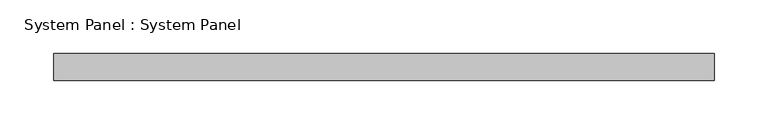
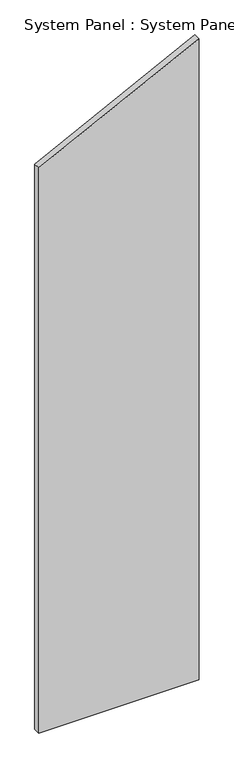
"""IFC4 building model written with IfcOpenShell, lengths in millimetres: plate geometry, System Panel : System Panel."""

from ifc_helpers import new_model, si_unit, frame, origin, place, context, project, spatial, polyline, outline, extrude, source, transform, mapped, element, save


def system_panel_system_panel_dc3b2216(model_context):
    return source(origin(), model_context, "Body", "SweptSolid", [
        extrude(outline(polyline([(0.0, 307.975), (2600.325, 307.975), (2292.35, -307.975), (0.0, -307.975), (0.0, 307.975)])), frame((0.0, 19.05, 0.0), z_axis=(0.0, 1.0, 0.0), x_axis=(0.0, 0.0, 1.0)), (0.0, 0.0, 1.0), 25.4),
    ])


if __name__ == "__main__":
    model = new_model("IFC4")
    model_context = context("Model", 3, world=origin())
    ifc_project = project(units=[si_unit("LENGTHUNIT", "METRE", prefix="MILLI")], contexts=[model_context])
    site = spatial("IfcSite", under=ifc_project)
    building = spatial("IfcBuilding", under=site)
    placement = place(None, origin())
    system_panel_system_panel_shape = system_panel_system_panel_dc3b2216(model_context)
    element("IfcPlate", 1, ObjectType="System Panel : System Panel", at=placement, inside=building, context=model_context, shape_type="MappedRepresentation", body=[
        mapped(system_panel_system_panel_shape, transform((0.0, 0.0, 0.0), x_axis=(1.0, 0.0, 0.0), y_axis=(0.0, 1.0, 0.0), z_axis=(0.0, 0.0, 1.0))),
    ])
    save(model, "model.ifc")
